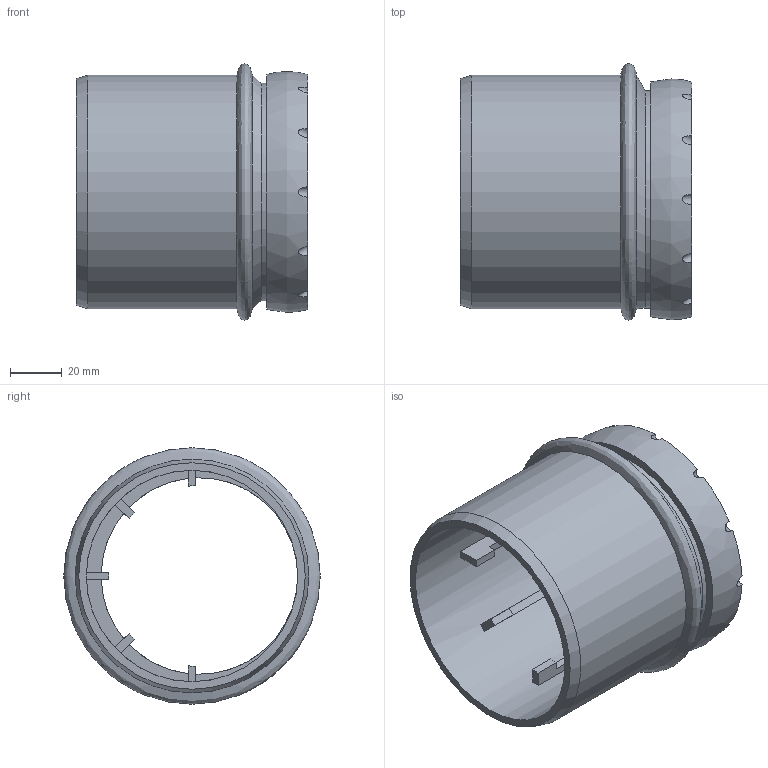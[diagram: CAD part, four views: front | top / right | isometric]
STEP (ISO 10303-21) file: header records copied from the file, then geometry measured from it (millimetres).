
FILE_DESCRIPTION(/* description */ (''),/* implementation_level */ '2;1');
FILE_NAME(/* name */ 'H:\Geberit-Teile\Export\Reduktion_ART\stp\393473.stp',/* time_stamp */ '2017-02-28T08:32:09+01:00',/* author */ ('seihe2'),/* organization */ (''),/* preprocessor_version */ 'ST-DEVELOPER v15.2',/* originating_system */ 'Autodesk Inventor 2014',/* authorisation */ '');
FILE_SCHEMA (('AUTOMOTIVE_DESIGN { 1 0 10303 214 3 1 1 }'));
Length unit declared in the file: millimetre
Products named in the file (1): 393473
Bounding box: 89.4 x 99 x 99 mm (x, y, z)
Volume: 118371.7 mm3; surface area: 59278.8 mm2
Topology: 1 solids, 1 shells, 59 faces, 159 edges, 105 vertices
Faces by surface type: plane 32, cylinder 23, bspline 3, cone 1
Full cylindrical faces by diameter (mm): 75.9 x1, 76.2 x1, 81.6 x1, 84 x1, 85 x1, 90.2 x1
Entity records: 2426 total; most frequent: CARTESIAN_POINT 852, DIRECTION 323, ORIENTED_EDGE 302, EDGE_CURVE 151, AXIS2_PLACEMENT_3D 130, VERTEX_POINT 104, EDGE_LOOP 71, LINE 63
